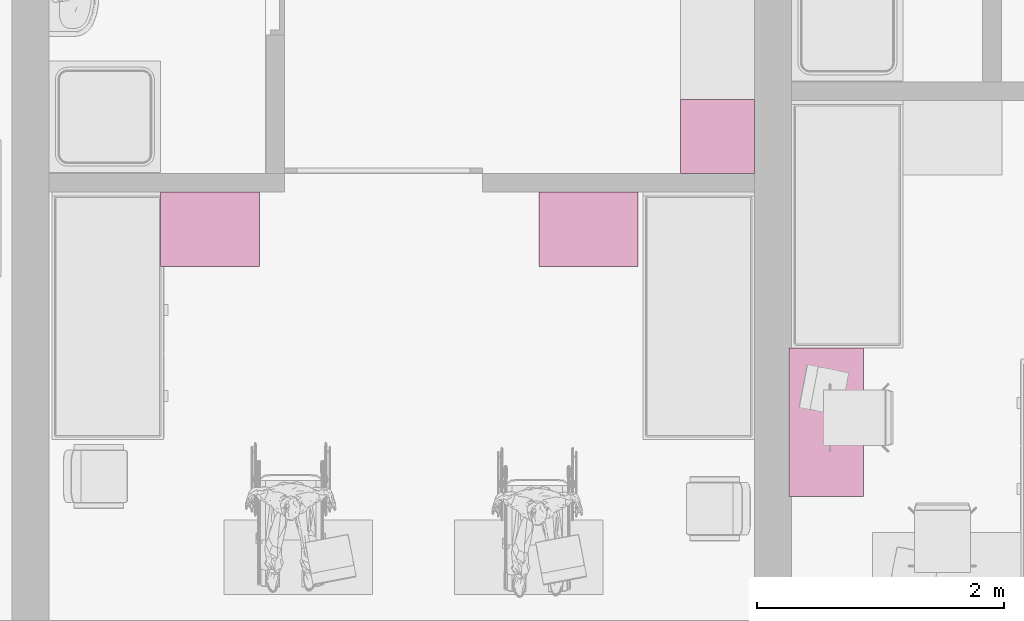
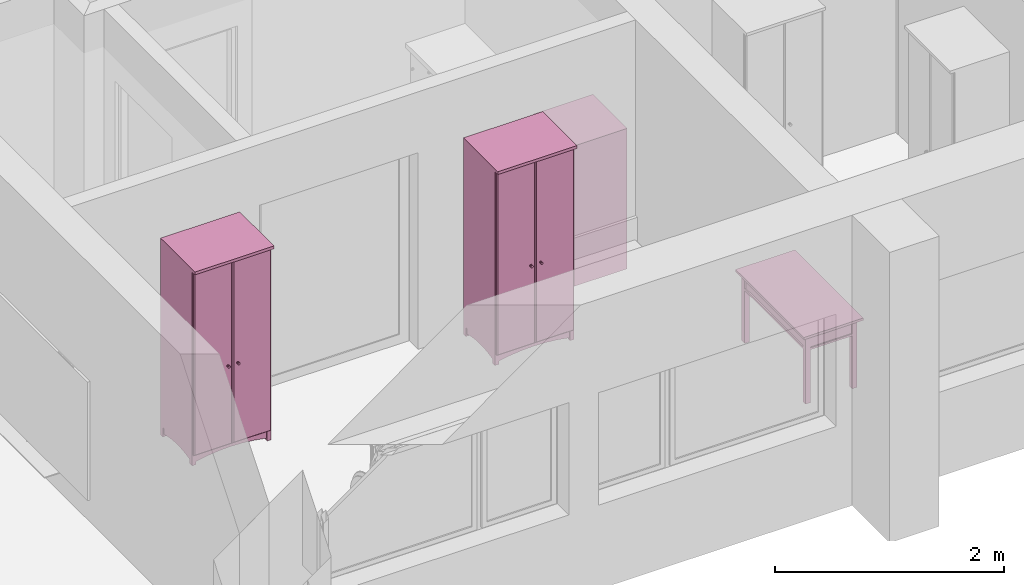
# One storey, part 124 of 172: 4 furnishings.
"""IFC2X3 building model written with IfcOpenShell, lengths in millimetres."""

from ifc_helpers import new_model, entity, si_unit, converted_unit, money_unit, direction, frame, origin_with_axes, place, context, subcontext, project, spatial, open_shell, faceted_brep, surface_model, source, transform, mapped, material, material_list, type_object, element, save


model = new_model("IFC2X3")

# Units and contexts
model_context = context("Model", 3, precision=1e-05, world=origin_with_axes(), true_north=direction((0.0, 1.0)))
body_context = subcontext(model_context, "Body", "Model", "MODEL_VIEW")
ifc_project = project(units=[si_unit("LENGTHUNIT", "METRE", prefix="MILLI"), si_unit("AREAUNIT", "SQUARE_METRE"), si_unit("VOLUMEUNIT", "CUBIC_METRE"), converted_unit("PLANEANGLEUNIT", "DEGREE", entity("IfcPlaneAngleMeasure", 0.0174532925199), si_unit("PLANEANGLEUNIT", "RADIAN"), dimensions=[0, 0, 0, 0, 0, 0, 0]), si_unit("SOLIDANGLEUNIT", "STERADIAN"), money_unit("USD"), converted_unit("TIMEUNIT", "Year", entity("IfcTimeMeasure", 31556926.0), si_unit("TIMEUNIT", "SECOND"), dimensions=[0, 0, 0, 0, 0, 0, 0]), si_unit("MASSUNIT", "GRAM"), si_unit("THERMODYNAMICTEMPERATUREUNIT", "DEGREE_CELSIUS"), si_unit("LUMINOUSINTENSITYUNIT", "LUMEN")], contexts=[model_context])

# Site, building, storey
site_placement = place(None, origin_with_axes())
site = spatial("IfcSite", under=ifc_project, at=site_placement, Name="Site", CompositionType="ELEMENT")
building_placement = place(site_placement, origin_with_axes())
building = spatial("IfcBuilding", under=site, at=building_placement, Name="Building", CompositionType="ELEMENT")
storey_placement = place(building_placement, frame((0.0, 0.0, 3200.0), z_axis=(0.0, 0.0, 1.0), x_axis=(1.0, 0.0, 0.0)))
storey = spatial("IfcBuildingStorey", under=building, at=storey_placement, Name="3KORRUS", CompositionType="ELEMENT", Elevation=3200.0)

# Furnishings
ifc_material = material(Name="Background")
ifc_material_list = material_list([ifc_material])
furnishing_element_type_1 = type_object("IfcFurnishingElementType", Name="Cupboard 19")
shared_shape_1 = source(origin_with_axes(), body_context, "Body", "Brep", [
    faceted_brep([(-780.0, 600.0, 120.0), (-780.0, 580.0, 120.0), (-780.0, 580.0, 2050.0), (-780.0, 600.0, 2050.0), (-20.0, 600.0, 120.0), (-20.0, 580.0, 120.0), (-20.0, 580.0, 2050.0), (-20.0, 600.0, 2050.0)], [[[0, 1, 2, 3]], [[0, 4, 5, 1]], [[1, 5, 6, 2]], [[3, 2, 6, 7]], [[4, 0, 3, 7]], [[5, 4, 7, 6]]]),
    faceted_brep([(0.0, 50.0, 100.0), (-20.0, 50.0, 100.0), (-20.0, 600.0, 100.0), (0.0, 600.0, 100.0), (0.0, 50.0, 2070.0), (-20.0, 50.0, 2070.0), (-20.0, 600.0, 2070.0), (0.0, 600.0, 2070.0)], [[[0, 1, 2, 3]], [[1, 0, 4, 5]], [[2, 1, 5, 6]], [[3, 2, 6, 7]], [[0, 3, 7, 4]], [[5, 4, 7, 6]]]),
    faceted_brep([(-780.0, 50.0, 100.0), (-800.0, 50.0, 100.0), (-800.0, 600.0, 100.0), (-780.0, 600.0, 100.0), (-780.0, 50.0, 2070.0), (-800.0, 50.0, 2070.0), (-800.0, 600.0, 2070.0), (-780.0, 600.0, 2070.0)], [[[0, 1, 2, 3]], [[1, 0, 4, 5]], [[2, 1, 5, 6]], [[3, 2, 6, 7]], [[0, 3, 7, 4]], [[5, 4, 7, 6]]]),
    faceted_brep([(-20.0, 50.0, 100.0), (-780.0, 50.0, 100.0), (-780.0, 600.0, 100.0), (-20.0, 600.0, 100.0), (-20.0, 50.0, 120.0), (-780.0, 50.0, 120.0), (-780.0, 600.0, 120.0), (-20.0, 600.0, 120.0)], [[[0, 1, 2, 3]], [[1, 0, 4, 5]], [[2, 1, 5, 6]], [[3, 2, 6, 7]], [[0, 3, 7, 4]], [[5, 4, 7, 6]]]),
    faceted_brep([(-20.0, 50.0, 2050.0), (-780.0, 50.0, 2050.0), (-780.0, 600.0, 2050.0), (-20.0, 600.0, 2050.0), (-20.0, 50.0, 2070.0), (-780.0, 50.0, 2070.0), (-780.0, 600.0, 2070.0), (-20.0, 600.0, 2070.0)], [[[0, 1, 2, 3]], [[1, 0, 4, 5]], [[2, 1, 5, 6]], [[3, 2, 6, 7]], [[0, 3, 7, 4]], [[5, 4, 7, 6]]]),
    faceted_brep([(0.0, 600.0, 2070.0), (0.0, 600.0, 2100.0), (0.0, 0.0, 2100.0), (0.0, 0.0, 2070.0), (-800.0, 600.0, 2070.0), (-800.0, 600.0, 2100.0), (-800.0, 0.0, 2100.0), (-800.0, 0.0, 2070.0)], [[[0, 1, 2, 3]], [[4, 5, 1, 0]], [[1, 5, 6, 2]], [[3, 2, 6, 7]], [[0, 3, 7, 4]], [[7, 6, 5, 4]]]),
    faceted_brep([(-760.0, 590.0, 25.0), (-640.962, 590.0, 45.8), (-640.962, 570.0, 45.8), (-760.0, 570.0, 25.0), (-760.0, 590.0, 100.0), (-40.0, 590.0, 100.0), (-40.0, 590.0, 25.0), (-159.038, 590.0, 45.8), (-279.23, 590.0, 58.32), (-400.0, 590.0, 62.5), (-520.77, 590.0, 58.32), (-520.77, 570.0, 58.32), (-400.0, 570.0, 62.5), (-279.23, 570.0, 58.32), (-159.038, 570.0, 45.8), (-40.0, 570.0, 25.0), (-40.0, 570.0, 100.0), (-760.0, 570.0, 100.0)], [[[0, 1, 2, 3]], [[0, 4, 5, 6, 7, 8, 9, 10, 1]], [[1, 10, 11, 2]], [[3, 2, 11, 12, 13, 14, 15, 16, 17]], [[4, 0, 3, 17]], [[5, 4, 17, 16]], [[6, 5, 16, 15]], [[7, 6, 15, 14]], [[8, 7, 14, 13]], [[9, 8, 13, 12]], [[10, 9, 12, 11]]]),
    faceted_brep([(-760.0, 80.0, 25.0), (-640.962, 80.0, 45.8), (-640.962, 60.0, 45.8), (-760.0, 60.0, 25.0), (-760.0, 80.0, 100.0), (-40.0, 80.0, 100.0), (-40.0, 80.0, 25.0), (-159.038, 80.0, 45.8), (-279.23, 80.0, 58.32), (-400.0, 80.0, 62.5), (-520.77, 80.0, 58.32), (-520.77, 60.0, 58.32), (-400.0, 60.0, 62.5), (-279.23, 60.0, 58.32), (-159.038, 60.0, 45.8), (-40.0, 60.0, 25.0), (-40.0, 60.0, 100.0), (-760.0, 60.0, 100.0)], [[[0, 1, 2, 3]], [[0, 4, 5, 6, 7, 8, 9, 10, 1]], [[1, 10, 11, 2]], [[3, 2, 11, 12, 13, 14, 15, 16, 17]], [[4, 0, 3, 17]], [[5, 4, 17, 16]], [[6, 5, 16, 15]], [[7, 6, 15, 14]], [[8, 7, 14, 13]], [[9, 8, 13, 12]], [[10, 9, 12, 11]]]),
    faceted_brep([(-790.0, 90.0, 25.0), (-790.0, 141.266, 38.072), (-770.0, 141.266, 38.072), (-770.0, 90.0, 25.0), (-790.0, 90.0, 100.0), (-790.0, 560.0, 100.0), (-790.0, 560.0, 25.0), (-790.0, 508.734, 38.072), (-790.0, 456.752, 47.92), (-790.0, 404.257, 54.508), (-790.0, 351.453, 57.808), (-790.0, 298.547, 57.808), (-790.0, 245.743, 54.508), (-790.0, 193.248, 47.92), (-770.0, 193.248, 47.92), (-770.0, 245.743, 54.508), (-770.0, 298.547, 57.808), (-770.0, 351.453, 57.808), (-770.0, 404.257, 54.508), (-770.0, 456.752, 47.92), (-770.0, 508.734, 38.072), (-770.0, 560.0, 25.0), (-770.0, 560.0, 100.0), (-770.0, 90.0, 100.0)], [[[0, 1, 2, 3]], [[0, 4, 5, 6, 7, 8, 9, 10, 11, 12, 13, 1]], [[1, 13, 14, 2]], [[3, 2, 14, 15, 16, 17, 18, 19, 20, 21, 22, 23]], [[4, 0, 3, 23]], [[5, 4, 23, 22]], [[6, 5, 22, 21]], [[7, 6, 21, 20]], [[8, 7, 20, 19]], [[9, 8, 19, 18]], [[10, 9, 18, 17]], [[11, 10, 17, 16]], [[12, 11, 16, 15]], [[13, 12, 15, 14]]]),
    faceted_brep([(-30.0, 90.0, 25.0), (-30.0, 141.266, 38.072), (-10.0, 141.266, 38.072), (-10.0, 90.0, 25.0), (-30.0, 90.0, 100.0), (-30.0, 560.0, 100.0), (-30.0, 560.0, 25.0), (-30.0, 508.734, 38.072), (-30.0, 456.752, 47.92), (-30.0, 404.257, 54.508), (-30.0, 351.453, 57.808), (-30.0, 298.547, 57.808), (-30.0, 245.743, 54.508), (-30.0, 193.248, 47.92), (-10.0, 193.248, 47.92), (-10.0, 245.743, 54.508), (-10.0, 298.547, 57.808), (-10.0, 351.453, 57.808), (-10.0, 404.257, 54.508), (-10.0, 456.752, 47.92), (-10.0, 508.734, 38.072), (-10.0, 560.0, 25.0), (-10.0, 560.0, 100.0), (-10.0, 90.0, 100.0)], [[[0, 1, 2, 3]], [[0, 4, 5, 6, 7, 8, 9, 10, 11, 12, 13, 1]], [[1, 13, 14, 2]], [[3, 2, 14, 15, 16, 17, 18, 19, 20, 21, 22, 23]], [[4, 0, 3, 23]], [[5, 4, 23, 22]], [[6, 5, 22, 21]], [[7, 6, 21, 20]], [[8, 7, 20, 19]], [[9, 8, 19, 18]], [[10, 9, 18, 17]], [[11, 10, 17, 16]], [[12, 11, 16, 15]], [[13, 12, 15, 14]]]),
    faceted_brep([(-760.0, 560.0, 0.0), (-760.0, 600.0, 0.0), (-760.0, 600.0, 100.0), (-760.0, 560.0, 100.0), (-800.0, 560.0, 0.0), (-800.0, 600.0, 0.0), (-800.0, 600.0, 100.0), (-800.0, 560.0, 100.0)], [[[0, 1, 2, 3]], [[0, 4, 5, 1]], [[1, 5, 6, 2]], [[3, 2, 6, 7]], [[4, 0, 3, 7]], [[5, 4, 7, 6]]]),
    faceted_brep([(0.0, 560.0, 0.0), (0.0, 600.0, 0.0), (0.0, 600.0, 100.0), (0.0, 560.0, 100.0), (-40.0, 560.0, 0.0), (-40.0, 600.0, 0.0), (-40.0, 600.0, 100.0), (-40.0, 560.0, 100.0)], [[[0, 1, 2, 3]], [[0, 4, 5, 1]], [[1, 5, 6, 2]], [[3, 2, 6, 7]], [[4, 0, 3, 7]], [[5, 4, 7, 6]]]),
    faceted_brep([(-760.0, 50.0, 0.0), (-760.0, 90.0, 0.0), (-760.0, 90.0, 100.0), (-760.0, 50.0, 100.0), (-800.0, 50.0, 0.0), (-800.0, 90.0, 0.0), (-800.0, 90.0, 100.0), (-800.0, 50.0, 100.0)], [[[0, 1, 2, 3]], [[0, 4, 5, 1]], [[1, 5, 6, 2]], [[3, 2, 6, 7]], [[4, 0, 3, 7]], [[5, 4, 7, 6]]]),
    faceted_brep([(0.0, 50.0, 0.0), (0.0, 90.0, 0.0), (0.0, 90.0, 100.0), (0.0, 50.0, 100.0), (-40.0, 50.0, 0.0), (-40.0, 90.0, 0.0), (-40.0, 90.0, 100.0), (-40.0, 50.0, 100.0)], [[[0, 1, 2, 3]], [[0, 4, 5, 1]], [[1, 5, 6, 2]], [[3, 2, 6, 7]], [[4, 0, 3, 7]], [[5, 4, 7, 6]]]),
    faceted_brep([(-780.0, 580.0, 587.5), (-780.0, 50.0, 587.5), (-780.0, 50.0, 607.5), (-780.0, 580.0, 607.5), (-20.0, 580.0, 587.5), (-20.0, 50.0, 587.5), (-20.0, 50.0, 607.5), (-20.0, 580.0, 607.5)], [[[0, 1, 2, 3]], [[0, 4, 5, 1]], [[1, 5, 6, 2]], [[3, 2, 6, 7]], [[4, 0, 3, 7]], [[5, 4, 7, 6]]]),
    faceted_brep([(-780.0, 580.0, 1075.0), (-780.0, 50.0, 1075.0), (-780.0, 50.0, 1095.0), (-780.0, 580.0, 1095.0), (-20.0, 580.0, 1075.0), (-20.0, 50.0, 1075.0), (-20.0, 50.0, 1095.0), (-20.0, 580.0, 1095.0)], [[[0, 1, 2, 3]], [[0, 4, 5, 1]], [[1, 5, 6, 2]], [[3, 2, 6, 7]], [[4, 0, 3, 7]], [[5, 4, 7, 6]]]),
    faceted_brep([(-780.0, 580.0, 1562.5), (-780.0, 50.0, 1562.5), (-780.0, 50.0, 1582.5), (-780.0, 580.0, 1582.5), (-20.0, 580.0, 1562.5), (-20.0, 50.0, 1562.5), (-20.0, 50.0, 1582.5), (-20.0, 580.0, 1582.5)], [[[0, 1, 2, 3]], [[0, 4, 5, 1]], [[1, 5, 6, 2]], [[3, 2, 6, 7]], [[4, 0, 3, 7]], [[5, 4, 7, 6]]]),
    faceted_brep([(-789.5, 50.0, 110.5), (-789.5, 50.0, 2059.5), (-400.5, 50.0, 2059.5), (-400.5, 50.0, 110.5), (-789.5, 40.0, 110.5), (-789.5, 40.0, 2059.5), (-400.5, 40.0, 2059.5), (-400.5, 40.0, 110.5), (-779.5, 30.0, 120.5), (-779.5, 30.0, 2049.5), (-410.5, 30.0, 2049.5), (-410.5, 30.0, 120.5)], [[[0, 1, 2, 3]], [[1, 0, 4, 5]], [[2, 1, 5, 6]], [[3, 2, 6, 7]], [[0, 3, 7, 4]], [[5, 4, 8, 9]], [[6, 5, 9, 10]], [[7, 6, 10, 11]], [[4, 7, 11, 8]], [[10, 9, 8, 11]]]),
    faceted_brep([(-399.5, 50.0, 110.5), (-399.5, 50.0, 2059.5), (-10.5, 50.0, 2059.5), (-10.5, 50.0, 110.5), (-399.5, 40.0, 110.5), (-399.5, 40.0, 2059.5), (-10.5, 40.0, 2059.5), (-10.5, 40.0, 110.5), (-389.5, 30.0, 120.5), (-389.5, 30.0, 2049.5), (-20.5, 30.0, 2049.5), (-20.5, 30.0, 120.5)], [[[0, 1, 2, 3]], [[1, 0, 4, 5]], [[2, 1, 5, 6]], [[3, 2, 6, 7]], [[0, 3, 7, 4]], [[5, 4, 8, 9]], [[6, 5, 9, 10]], [[7, 6, 10, 11]], [[4, 7, 11, 8]], [[10, 9, 8, 11]]]),
    faceted_brep([(-339.608, 30.0, 954.0), (-344.0, 30.0, 949.608), (-350.0, 30.0, 948.0), (-356.0, 30.0, 949.608), (-360.392, 30.0, 954.0), (-362.0, 30.0, 960.0), (-360.392, 30.0, 966.0), (-356.0, 30.0, 970.392), (-350.0, 30.0, 972.0), (-344.0, 30.0, 970.392), (-339.608, 30.0, 966.0), (-338.0, 30.0, 960.0), (-339.608, 5.0, 954.0), (-344.0, 5.0, 949.608), (-350.0, 5.0, 948.0), (-356.0, 5.0, 949.608), (-360.392, 5.0, 954.0), (-362.0, 5.0, 960.0), (-360.392, 5.0, 966.0), (-356.0, 5.0, 970.392), (-350.0, 5.0, 972.0), (-344.0, 5.0, 970.392), (-339.608, 5.0, 966.0), (-338.0, 5.0, 960.0)], [[[0, 1, 2, 3, 4, 5, 6, 7, 8, 9, 10, 11]], [[1, 0, 12, 13]], [[2, 1, 13, 14]], [[3, 2, 14, 15]], [[4, 3, 15, 16]], [[5, 4, 16, 17]], [[6, 5, 17, 18]], [[7, 6, 18, 19]], [[8, 7, 19, 20]], [[9, 8, 20, 21]], [[10, 9, 21, 22]], [[11, 10, 22, 23]], [[0, 11, 23, 12]], [[12, 23, 22, 21, 20, 19, 18, 17, 16, 15, 14, 13]]]),
    faceted_brep([(-460.392, 30.0, 954.0), (-462.0, 30.0, 960.0), (-460.392, 30.0, 966.0), (-456.0, 30.0, 970.392), (-450.0, 30.0, 972.0), (-444.0, 30.0, 970.392), (-439.608, 30.0, 966.0), (-438.0, 30.0, 960.0), (-439.608, 30.0, 954.0), (-444.0, 30.0, 949.608), (-450.0, 30.0, 948.0), (-456.0, 30.0, 949.608), (-460.392, 5.0, 954.0), (-462.0, 5.0, 960.0), (-460.392, 5.0, 966.0), (-456.0, 5.0, 970.392), (-450.0, 5.0, 972.0), (-444.0, 5.0, 970.392), (-439.608, 5.0, 966.0), (-438.0, 5.0, 960.0), (-439.608, 5.0, 954.0), (-444.0, 5.0, 949.608), (-450.0, 5.0, 948.0), (-456.0, 5.0, 949.608)], [[[0, 1, 2, 3, 4, 5, 6, 7, 8, 9, 10, 11]], [[0, 12, 13, 1]], [[1, 13, 14, 2]], [[2, 14, 15, 3]], [[3, 15, 16, 4]], [[4, 16, 17, 5]], [[5, 17, 18, 6]], [[6, 18, 19, 7]], [[7, 19, 20, 8]], [[8, 20, 21, 9]], [[9, 21, 22, 10]], [[10, 22, 23, 11]], [[11, 23, 12, 0]], [[12, 23, 22, 21, 20, 19, 18, 17, 16, 15, 14, 13]]]),
])
for number, where, z_axis, x_axis, name in (
    (1, (-4290.29670331, -16779.7357921, 0.0), (0.0, 0.0, 1.0), (1.0, 0.0, 0.0), "FU - 014"),
    (2, (-1230.10753451, -16779.7357921, 0.0), (0.0, 0.0, 1.0), (1.0, 0.0, 0.0), "FU - 014"),
):
    element("IfcFurnishingElement", number, at=place(storey_placement, frame(where, z_axis=z_axis, x_axis=x_axis)), inside=storey, type_object=furnishing_element_type_1, material=ifc_material_list, Name=name, context=body_context, shape_type="MappedRepresentation", body=[
        mapped(shared_shape_1, transform((0.0, 0.0, 0.0))),
    ])
furnishing_element_type_2 = type_object("IfcFurnishingElementType", Name="Refrigerator 19")
shared_shape_2 = source(origin_with_axes(), body_context, "Body", "SurfaceModel", [
    faceted_brep([(0.0, 0.0, 1475.0), (600.0, 0.0, 1475.0), (600.0, 0.0, 1500.0), (0.0, 0.0, 1500.0), (0.0, 600.0, 1475.0), (600.0, 600.0, 1475.0), (600.0, 600.0, 1500.0), (0.0, 600.0, 1500.0)], [[[0, 1, 2, 3]], [[0, 4, 5, 1]], [[1, 5, 6, 2]], [[3, 2, 6, 7]], [[4, 0, 3, 7]], [[5, 4, 7, 6]]]),
    faceted_brep([(0.0, 65.0, 0.0), (600.0, 65.0, 0.0), (600.0, 65.0, 1475.0), (0.0, 65.0, 1475.0), (0.0, 600.0, 0.0), (600.0, 600.0, 0.0), (600.0, 600.0, 1475.0), (0.0, 600.0, 1475.0)], [[[0, 1, 2, 3]], [[0, 4, 5, 1]], [[1, 5, 6, 2]], [[3, 2, 6, 7]], [[4, 0, 3, 7]], [[5, 4, 7, 6]]]),
    faceted_brep([(0.0, 30.0, 0.0), (600.0, 30.0, 0.0), (600.0, 30.0, 90.0), (0.0, 30.0, 90.0), (0.0, 60.0, 0.0), (600.0, 60.0, 0.0), (600.0, 60.0, 90.0), (0.0, 60.0, 90.0)], [[[0, 1, 2, 3]], [[0, 4, 5, 1]], [[1, 5, 6, 2]], [[3, 2, 6, 7]], [[4, 0, 3, 7]], [[5, 4, 7, 6]]]),
    faceted_brep([(0.0, 60.0, 90.0), (600.0, 60.0, 90.0), (600.0, 0.0, 90.0), (0.0, 0.0, 90.0), (0.0, 60.0, 1474.5), (600.0, 60.0, 1474.5), (600.0, 0.0, 1474.5), (0.0, 0.0, 1474.5)], [[[0, 1, 2, 3]], [[0, 4, 5, 1]], [[1, 5, 6, 2]], [[3, 2, 6, 7]], [[4, 0, 3, 7]], [[5, 4, 7, 6]]]),
    surface_model("IfcShellBasedSurfaceModel", [(600.0, -30.0, 900.0), (600.0, -30.0, 1100.0), (600.0, 0.0, 1100.0), (600.0, 0.0, 900.0)], [open_shell([[[0, 1, 2, 3]]])]),
    surface_model("IfcShellBasedSurfaceModel", [(600.0, -30.0, 900.0), (600.0, -30.0, 1100.0), (570.0, -30.0, 1100.0), (570.0, -30.0, 900.0)], [open_shell([[[0, 1, 2, 3]]])]),
])
furnishing_1_placement = place(storey_placement, frame((-890.296703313, -15429.7357921, 0.0), z_axis=(0.0, 0.0, 1.0), x_axis=(0.0, -1.0, 0.0)))
element("IfcFurnishingElement", 3, at=furnishing_1_placement, inside=storey, type_object=furnishing_element_type_2, material=ifc_material_list, Name="FU - 007", context=body_context, shape_type="MappedRepresentation", body=[
    mapped(shared_shape_2, transform((0.0, 0.0, 0.0))),
])
furnishing_element_type_3 = type_object("IfcFurnishingElementType", Name="Rectangular Table 01 19")
shared_shape_3 = source(origin_with_axes(), body_context, "Body", "Brep", [
    faceted_brep([(-90.0, 40.0, 0.0), (-90.0, 90.0, 0.0), (-40.0, 90.0, 0.0), (-40.0, 40.0, 0.0), (-90.0, 40.0, 725.0), (-90.0, 90.0, 725.0), (-40.0, 90.0, 725.0), (-40.0, 40.0, 725.0)], [[[0, 1, 2, 3]], [[0, 4, 5, 1]], [[1, 5, 6, 2]], [[2, 6, 7, 3]], [[3, 7, 4, 0]], [[7, 6, 5, 4]]]),
    faceted_brep([(-1160.0, 40.0, 0.0), (-1160.0, 90.0, 0.0), (-1110.0, 90.0, 0.0), (-1110.0, 40.0, 0.0), (-1160.0, 40.0, 725.0), (-1160.0, 90.0, 725.0), (-1110.0, 90.0, 725.0), (-1110.0, 40.0, 725.0)], [[[0, 1, 2, 3]], [[0, 4, 5, 1]], [[1, 5, 6, 2]], [[2, 6, 7, 3]], [[3, 7, 4, 0]], [[7, 6, 5, 4]]]),
    faceted_brep([(-90.0, 510.0, 0.0), (-90.0, 560.0, 0.0), (-40.0, 560.0, 0.0), (-40.0, 510.0, 0.0), (-90.0, 510.0, 725.0), (-90.0, 560.0, 725.0), (-40.0, 560.0, 725.0), (-40.0, 510.0, 725.0)], [[[0, 1, 2, 3]], [[0, 4, 5, 1]], [[1, 5, 6, 2]], [[2, 6, 7, 3]], [[3, 7, 4, 0]], [[7, 6, 5, 4]]]),
    faceted_brep([(-1160.0, 510.0, 0.0), (-1160.0, 560.0, 0.0), (-1110.0, 560.0, 0.0), (-1110.0, 510.0, 0.0), (-1160.0, 510.0, 725.0), (-1160.0, 560.0, 725.0), (-1110.0, 560.0, 725.0), (-1110.0, 510.0, 725.0)], [[[0, 1, 2, 3]], [[0, 4, 5, 1]], [[1, 5, 6, 2]], [[2, 6, 7, 3]], [[3, 7, 4, 0]], [[7, 6, 5, 4]]]),
    faceted_brep([(-1160.0, 40.0, 565.0), (-1160.0, 560.0, 565.0), (-40.0, 560.0, 565.0), (-40.0, 40.0, 565.0), (-1160.0, 40.0, 585.0), (-1160.0, 560.0, 585.0), (-40.0, 560.0, 585.0), (-40.0, 40.0, 585.0)], [[[0, 1, 2, 3]], [[0, 4, 5, 1]], [[1, 5, 6, 2]], [[2, 6, 7, 3]], [[3, 7, 4, 0]], [[7, 6, 5, 4]]]),
    faceted_brep([(-1110.0, 52.5, 585.0), (-1110.0, 77.5, 585.0), (-90.0, 77.5, 585.0), (-90.0, 52.5, 585.0), (-1110.0, 52.5, 745.0), (-1110.0, 77.5, 745.0), (-90.0, 77.5, 745.0), (-90.0, 52.5, 745.0)], [[[0, 1, 2, 3]], [[0, 4, 5, 1]], [[1, 5, 6, 2]], [[2, 6, 7, 3]], [[3, 7, 4, 0]], [[7, 6, 5, 4]]]),
    faceted_brep([(-77.5, 90.0, 585.0), (-77.5, 510.0, 585.0), (-52.5, 510.0, 585.0), (-52.5, 90.0, 585.0), (-77.5, 90.0, 745.0), (-77.5, 510.0, 745.0), (-52.5, 510.0, 745.0), (-52.5, 90.0, 745.0)], [[[0, 1, 2, 3]], [[0, 4, 5, 1]], [[1, 5, 6, 2]], [[2, 6, 7, 3]], [[3, 7, 4, 0]], [[7, 6, 5, 4]]]),
    faceted_brep([(-90.0, 547.5, 585.0), (-90.0, 522.5, 585.0), (-1110.0, 522.5, 585.0), (-1110.0, 547.5, 585.0), (-90.0, 547.5, 745.0), (-90.0, 522.5, 745.0), (-1110.0, 522.5, 745.0), (-1110.0, 547.5, 745.0)], [[[0, 1, 2, 3]], [[0, 4, 5, 1]], [[1, 5, 6, 2]], [[2, 6, 7, 3]], [[3, 7, 4, 0]], [[7, 6, 5, 4]]]),
    faceted_brep([(-1122.5, 510.0, 585.0), (-1122.5, 90.0, 585.0), (-1147.5, 90.0, 585.0), (-1147.5, 510.0, 585.0), (-1122.5, 510.0, 745.0), (-1122.5, 90.0, 745.0), (-1147.5, 90.0, 745.0), (-1147.5, 510.0, 745.0)], [[[0, 1, 2, 3]], [[0, 4, 5, 1]], [[1, 5, 6, 2]], [[2, 6, 7, 3]], [[3, 7, 4, 0]], [[7, 6, 5, 4]]]),
    faceted_brep([(-597.5, 40.0, 585.0), (-597.5, 60.0, 585.0), (-95.0, 60.0, 585.0), (-95.0, 40.0, 585.0), (-597.5, 40.0, 745.0), (-597.5, 60.0, 745.0), (-95.0, 60.0, 745.0), (-95.0, 40.0, 745.0)], [[[0, 1, 2, 3]], [[0, 4, 5, 1]], [[1, 5, 6, 2]], [[2, 6, 7, 3]], [[3, 7, 4, 0]], [[7, 6, 5, 4]]]),
    faceted_brep([(-1105.0, 40.0, 585.0), (-1105.0, 60.0, 585.0), (-602.5, 60.0, 585.0), (-602.5, 40.0, 585.0), (-1105.0, 40.0, 745.0), (-1105.0, 60.0, 745.0), (-602.5, 60.0, 745.0), (-602.5, 40.0, 745.0)], [[[0, 1, 2, 3]], [[0, 4, 5, 1]], [[1, 5, 6, 2]], [[2, 6, 7, 3]], [[3, 7, 4, 0]], [[7, 6, 5, 4]]]),
    faceted_brep([(-354.91, 40.0, 660.0), (-356.25, 40.0, 665.0), (-354.91, 40.0, 670.0), (-351.25, 40.0, 673.66), (-346.25, 40.0, 675.0), (-341.25, 40.0, 673.66), (-337.59, 40.0, 670.0), (-336.25, 40.0, 665.0), (-337.59, 40.0, 660.0), (-341.25, 40.0, 656.34), (-346.25, 40.0, 655.0), (-351.25, 40.0, 656.34), (-354.91, 25.0, 660.0), (-356.25, 25.0, 665.0), (-354.91, 25.0, 670.0), (-351.25, 25.0, 673.66), (-346.25, 25.0, 675.0), (-341.25, 25.0, 673.66), (-337.59, 25.0, 670.0), (-336.25, 25.0, 665.0), (-337.59, 25.0, 660.0), (-341.25, 25.0, 656.34), (-346.25, 25.0, 655.0), (-351.25, 25.0, 656.34)], [[[0, 1, 2, 3, 4, 5, 6, 7, 8, 9, 10, 11]], [[0, 12, 13, 1]], [[1, 13, 14, 2]], [[2, 14, 15, 3]], [[3, 15, 16, 4]], [[4, 16, 17, 5]], [[5, 17, 18, 6]], [[6, 18, 19, 7]], [[7, 19, 20, 8]], [[8, 20, 21, 9]], [[9, 21, 22, 10]], [[10, 22, 23, 11]], [[11, 23, 12, 0]], [[12, 23, 22, 21, 20, 19, 18, 17, 16, 15, 14, 13]]]),
    faceted_brep([(-356.25, 12.01, 665.0), (-354.91, 12.01, 660.0), (-346.25, 10.0, 665.0), (-363.571, 17.5, 665.0), (-361.25, 17.5, 656.34), (-351.25, 12.01, 656.34), (-354.91, 12.01, 670.0), (-366.25, 25.0, 665.0), (-363.571, 25.0, 655.0), (-354.91, 17.5, 650.0), (-361.25, 17.5, 673.66), (-346.25, 12.01, 655.0), (-351.25, 12.01, 673.66), (-363.571, 25.0, 675.0), (-356.25, 25.0, 682.321), (-346.25, 25.0, 685.0), (-336.25, 25.0, 682.321), (-328.929, 25.0, 675.0), (-326.25, 25.0, 665.0), (-328.929, 25.0, 655.0), (-336.25, 25.0, 647.679), (-346.25, 25.0, 645.0), (-356.25, 25.0, 647.679), (-346.25, 17.5, 647.679), (-354.91, 17.5, 680.0), (-341.25, 12.01, 656.34), (-346.25, 12.01, 675.0), (-346.25, 17.5, 682.321), (-337.59, 17.5, 680.0), (-331.25, 17.5, 673.66), (-328.929, 17.5, 665.0), (-331.25, 17.5, 656.34), (-337.59, 17.5, 650.0), (-337.59, 12.01, 660.0), (-341.25, 12.01, 673.66), (-337.59, 12.01, 670.0), (-336.25, 12.01, 665.0)], [[[0, 1, 2]], [[3, 4, 1, 0]], [[1, 5, 2]], [[6, 0, 2]], [[7, 8, 4, 3]], [[4, 9, 5, 1]], [[10, 3, 0, 6]], [[5, 11, 2]], [[12, 6, 2]], [[8, 7, 13, 14, 15, 16, 17, 18, 19, 20, 21, 22]], [[8, 22, 9, 4]], [[13, 7, 3, 10]], [[9, 23, 11, 5]], [[24, 10, 6, 12]], [[11, 25, 2]], [[26, 12, 2]], [[14, 13, 10, 24]], [[15, 14, 24, 27]], [[16, 15, 27, 28]], [[17, 16, 28, 29]], [[18, 17, 29, 30]], [[19, 18, 30, 31]], [[20, 19, 31, 32]], [[21, 20, 32, 23]], [[22, 21, 23, 9]], [[23, 32, 25, 11]], [[27, 24, 12, 26]], [[25, 33, 2]], [[34, 26, 2]], [[28, 27, 26, 34]], [[29, 28, 34, 35]], [[30, 29, 35, 36]], [[31, 30, 36, 33]], [[32, 31, 33, 25]], [[33, 36, 2]], [[35, 34, 2]], [[36, 35, 2]]]),
    faceted_brep([(-862.41, 40.0, 660.0), (-863.75, 40.0, 665.0), (-862.41, 40.0, 670.0), (-858.75, 40.0, 673.66), (-853.75, 40.0, 675.0), (-848.75, 40.0, 673.66), (-845.09, 40.0, 670.0), (-843.75, 40.0, 665.0), (-845.09, 40.0, 660.0), (-848.75, 40.0, 656.34), (-853.75, 40.0, 655.0), (-858.75, 40.0, 656.34), (-862.41, 25.0, 660.0), (-863.75, 25.0, 665.0), (-862.41, 25.0, 670.0), (-858.75, 25.0, 673.66), (-853.75, 25.0, 675.0), (-848.75, 25.0, 673.66), (-845.09, 25.0, 670.0), (-843.75, 25.0, 665.0), (-845.09, 25.0, 660.0), (-848.75, 25.0, 656.34), (-853.75, 25.0, 655.0), (-858.75, 25.0, 656.34)], [[[0, 1, 2, 3, 4, 5, 6, 7, 8, 9, 10, 11]], [[0, 12, 13, 1]], [[1, 13, 14, 2]], [[2, 14, 15, 3]], [[3, 15, 16, 4]], [[4, 16, 17, 5]], [[5, 17, 18, 6]], [[6, 18, 19, 7]], [[7, 19, 20, 8]], [[8, 20, 21, 9]], [[9, 21, 22, 10]], [[10, 22, 23, 11]], [[11, 23, 12, 0]], [[12, 23, 22, 21, 20, 19, 18, 17, 16, 15, 14, 13]]]),
    faceted_brep([(-863.75, 12.01, 665.0), (-862.41, 12.01, 660.0), (-853.75, 10.0, 665.0), (-871.071, 17.5, 665.0), (-868.75, 17.5, 656.34), (-858.75, 12.01, 656.34), (-862.41, 12.01, 670.0), (-873.75, 25.0, 665.0), (-871.071, 25.0, 655.0), (-862.41, 17.5, 650.0), (-868.75, 17.5, 673.66), (-853.75, 12.01, 655.0), (-858.75, 12.01, 673.66), (-871.071, 25.0, 675.0), (-863.75, 25.0, 682.321), (-853.75, 25.0, 685.0), (-843.75, 25.0, 682.321), (-836.429, 25.0, 675.0), (-833.75, 25.0, 665.0), (-836.429, 25.0, 655.0), (-843.75, 25.0, 647.679), (-853.75, 25.0, 645.0), (-863.75, 25.0, 647.679), (-853.75, 17.5, 647.679), (-862.41, 17.5, 680.0), (-848.75, 12.01, 656.34), (-853.75, 12.01, 675.0), (-853.75, 17.5, 682.321), (-845.09, 17.5, 680.0), (-838.75, 17.5, 673.66), (-836.429, 17.5, 665.0), (-838.75, 17.5, 656.34), (-845.09, 17.5, 650.0), (-845.09, 12.01, 660.0), (-848.75, 12.01, 673.66), (-845.09, 12.01, 670.0), (-843.75, 12.01, 665.0)], [[[0, 1, 2]], [[3, 4, 1, 0]], [[1, 5, 2]], [[6, 0, 2]], [[7, 8, 4, 3]], [[4, 9, 5, 1]], [[10, 3, 0, 6]], [[5, 11, 2]], [[12, 6, 2]], [[8, 7, 13, 14, 15, 16, 17, 18, 19, 20, 21, 22]], [[8, 22, 9, 4]], [[13, 7, 3, 10]], [[9, 23, 11, 5]], [[24, 10, 6, 12]], [[11, 25, 2]], [[26, 12, 2]], [[14, 13, 10, 24]], [[15, 14, 24, 27]], [[16, 15, 27, 28]], [[17, 16, 28, 29]], [[18, 17, 29, 30]], [[19, 18, 30, 31]], [[20, 19, 31, 32]], [[21, 20, 32, 23]], [[22, 21, 23, 9]], [[23, 32, 25, 11]], [[27, 24, 12, 26]], [[25, 33, 2]], [[34, 26, 2]], [[28, 27, 26, 34]], [[29, 28, 34, 35]], [[30, 29, 35, 36]], [[31, 30, 36, 33]], [[32, 31, 33, 25]], [[33, 36, 2]], [[35, 34, 2]], [[36, 35, 2]]]),
    faceted_brep([(-1200.0, 0.0, 725.0), (-1200.0, 600.0, 725.0), (0.0, 600.0, 725.0), (0.0, 0.0, 725.0), (-1200.0, 0.0, 750.0), (-1200.0, 600.0, 750.0), (0.0, 600.0, 750.0), (0.0, 0.0, 750.0)], [[[0, 1, 2, 3]], [[0, 4, 5, 1]], [[1, 5, 6, 2]], [[2, 6, 7, 3]], [[3, 7, 4, 0]], [[7, 6, 5, 4]]]),
])
furnishing_2_placement = place(storey_placement, frame((589.703296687, -17439.2398994, 0.0), z_axis=(0.0, 0.0, 1.0), x_axis=(0.0, 1.0, 0.0)))
element("IfcFurnishingElement", 4, at=furnishing_2_placement, inside=storey, type_object=furnishing_element_type_3, material=ifc_material_list, Name="FU - 011", context=body_context, shape_type="MappedRepresentation", body=[
    mapped(shared_shape_3, transform((0.0, 0.0, 0.0))),
])

save(model, "model.ifc")
